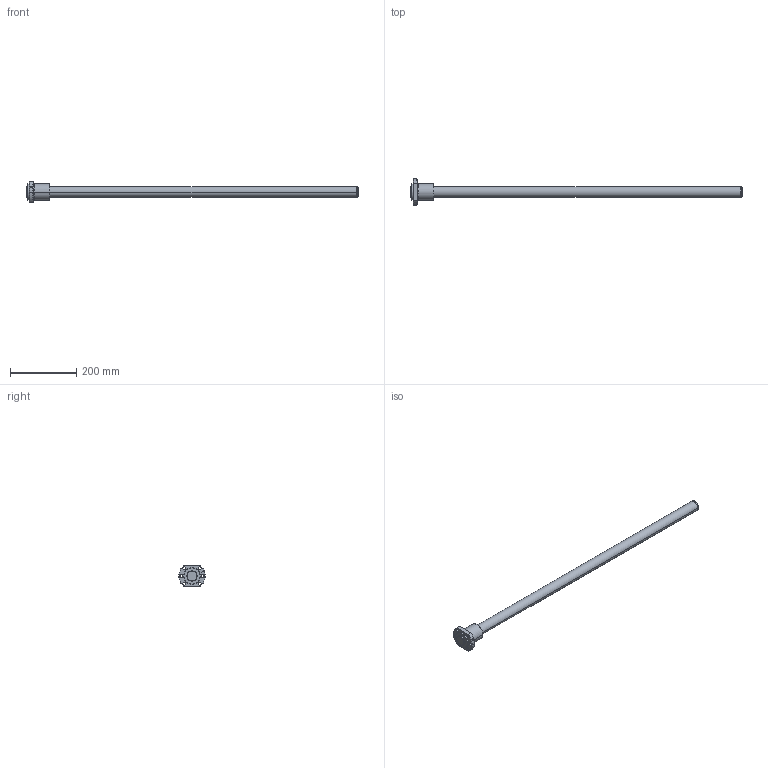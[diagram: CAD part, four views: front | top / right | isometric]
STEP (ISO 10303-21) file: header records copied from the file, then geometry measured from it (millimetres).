
FILE_DESCRIPTION( ( '' ), '1' );
FILE_NAME( 'C:/Users/v3-771-32344/Desktop/EBB STEP/EBB 3205-6 RRNone+1000L C7(923070)-ebb3.stp', '2015-08-27T13:38:21', ( '' ), ( '' ), ' ', ' ', ' ' );
FILE_SCHEMA( ( 'CONFIG_CONTROL_DESIGN' ) );
Length unit declared in the file: millimetre
Products named in the file (2): 1; 2
Bounding box: 1000 x 80 x 62 mm (x, y, z)
Volume: 904762.2 mm3; surface area: 130229.5 mm2
Topology: 2 solids, 2 shells, 67 faces, 155 edges, 99 vertices
Faces by surface type: cylinder 36, cone 18, plane 13
Entity records: 2167 total; most frequent: CARTESIAN_POINT 473, DIRECTION 366, ORIENTED_EDGE 310, AXIS2_PLACEMENT_3D 155, EDGE_CURVE 155, VERTEX_POINT 99, EDGE_LOOP 90, CIRCLE 86
